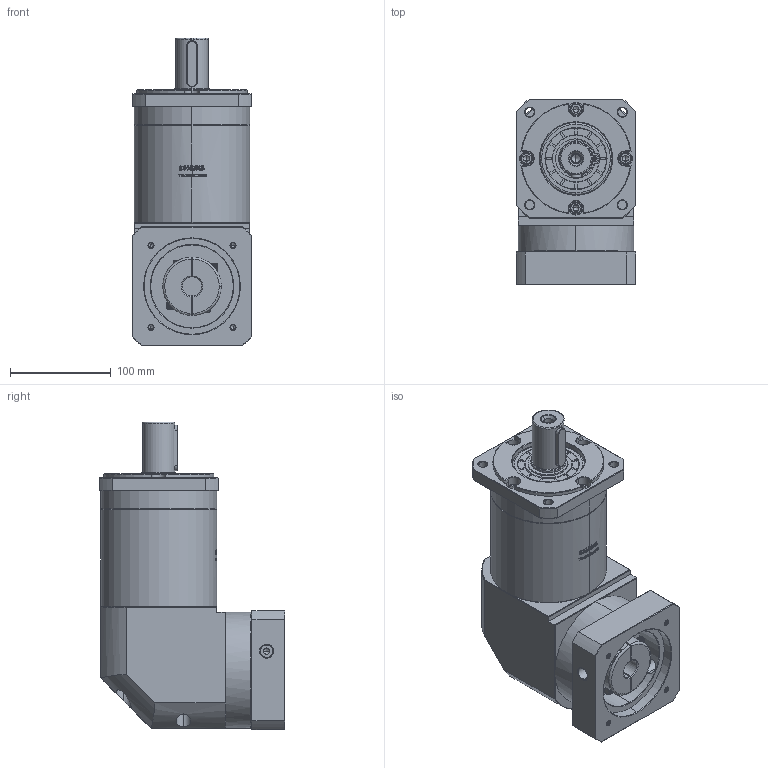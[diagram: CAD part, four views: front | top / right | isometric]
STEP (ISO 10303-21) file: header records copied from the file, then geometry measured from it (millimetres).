
FILE_DESCRIPTION (( 'STEP AP214' ), '1' );
FILE_NAME ('ZFR120A-D32-L3-19-95-115-M6.step', '2023-03-08T08:27:20', ( '' ), ( '' ), 'SwSTEP 2.0', 'SolidWorks 2016', '' );
FILE_SCHEMA (( 'AUTOMOTIVE_DESIGN' ));
Length unit declared in the file: millimetre
Products named in the file (1): ZFR120A-D32-L3-19-95-115-M6
Bounding box: 118 x 183.9 x 305 mm (x, y, z)
Volume: 3407408.9 mm3; surface area: 257506.2 mm2
Topology: 6 solids, 6 shells, 2858 faces, 7639 edges, 4925 vertices
Faces by surface type: plane 1483, bspline 610, cylinder 419, cone 338, torus 8
Entity records: 158499 total; most frequent: CARTESIAN_POINT 61540, ORIENTED_EDGE 15218, DIRECTION 11076, EDGE_CURVE 7609, VERTEX_POINT 4925, LINE 4730, VECTOR 4730, AXIS2_PLACEMENT_3D 3173
